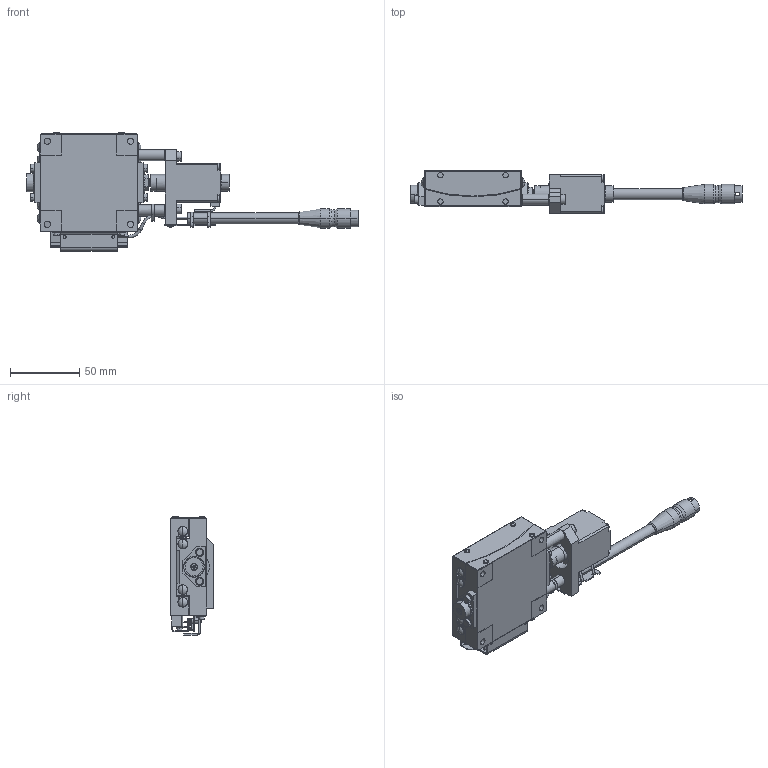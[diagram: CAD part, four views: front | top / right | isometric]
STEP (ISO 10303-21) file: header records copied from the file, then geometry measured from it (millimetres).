
FILE_DESCRIPTION (( 'STEP AP214' ), '1' );
FILE_NAME ('KGB07096AT-LT.STEP', '2024-04-17T01:01:03', ( '' ), ( '' ), 'SwSTEP 2.0', 'SolidWorks 2017', '' );
FILE_SCHEMA (( 'AUTOMOTIVE_DESIGN' ));
Length unit declared in the file: millimetre
Products named in the file (5): KGB-70-T-L; KGB-BASE-07096-L; KGB-TOP-07096-L; KGB07096AT-LT; KGB-70-T-12-L
Assembly tree (4 placements, depth 2):
  KGB07096AT-LT
    KGB-BASE-07096-L
    KGB-TOP-07096-L
    KGB-70-T-L
    KGB-70-T-12-L
Bounding box: 239.4 x 31 x 85.1 mm (x, y, z)
Volume: 177240.8 mm3; surface area: 61484.4 mm2
Topology: 8 solids, 47 shells, 1393 faces, 3434 edges, 2210 vertices
Faces by surface type: plane 722, cylinder 469, cone 106, torus 54, bspline 22, sphere 20
Entity records: 42388 total; most frequent: CARTESIAN_POINT 7958, DIRECTION 7334, ORIENTED_EDGE 6776, EDGE_CURVE 3388, AXIS2_PLACEMENT_3D 2610, VERTEX_POINT 2210, VECTOR 2114, LINE 2114
